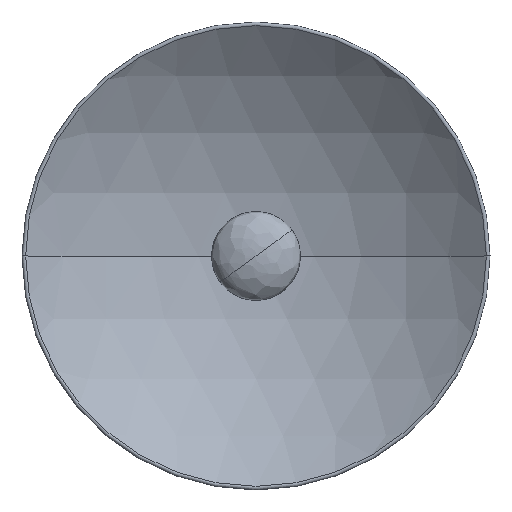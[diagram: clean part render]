
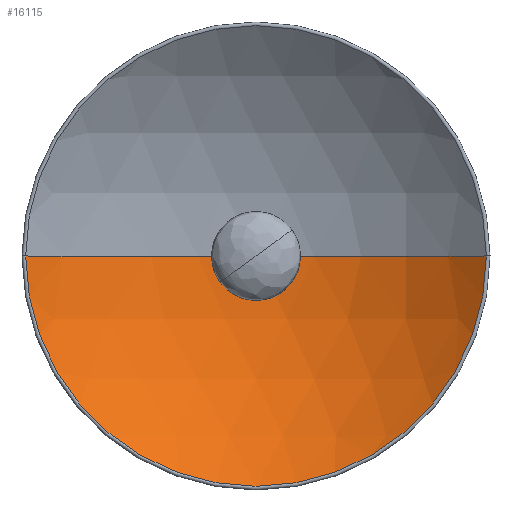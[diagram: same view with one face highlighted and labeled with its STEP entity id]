
A CAD part, top view. The second image highlights one B-rep face of the part: STEP entity #16115.
In plain terms, the highlighted spherical face has radius 233.719 mm.
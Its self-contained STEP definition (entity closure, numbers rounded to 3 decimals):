
#190 = CARTESIAN_POINT ( 'NONE',  ( 0., 0., 158.505 ) ) ;
#1108 = VERTEX_POINT ( 'NONE', #66235 ) ;
#1424 = AXIS2_PLACEMENT_3D ( 'NONE', #190, #72651, #8508 ) ;
#8352 = DIRECTION ( 'NONE',  ( 0., 0., 1. ) ) ;
#8508 = DIRECTION ( 'NONE',  ( 1., 0., 0. ) ) ;
#8664 = CARTESIAN_POINT ( 'NONE',  ( -155.504, 0., -15.974 ) ) ;
#14717 = AXIS2_PLACEMENT_3D ( 'NONE', #29676, #78933, #43181 ) ;
#14877 = CARTESIAN_POINT ( 'NONE',  ( 0., 0., -75.124 ) ) ;
#15943 = DIRECTION ( 'NONE',  ( 0., -1., 0. ) ) ;
#16115 = ADVANCED_FACE ( 'NONE', ( #29456 ), #71743, .F. ) ;
#16234 = EDGE_CURVE ( 'NONE', #66726, #29293, #62284, .T. ) ;
#18466 = DIRECTION ( 'NONE',  ( -1., 0., 0. ) ) ;
#20775 = AXIS2_PLACEMENT_3D ( 'NONE', #73709, #53248, #60700 ) ;
#22118 = VERTEX_POINT ( 'NONE', #8664 ) ;
#29293 = VERTEX_POINT ( 'NONE', #73585 ) ;
#29456 = FACE_OUTER_BOUND ( 'NONE', #61078, .T. ) ;
#29676 = CARTESIAN_POINT ( 'NONE',  ( 0., 0., -15.974 ) ) ;
#30610 = CIRCLE ( 'NONE', #82543, 233.719 ) ;
#30695 = EDGE_CURVE ( 'NONE', #77391, #66726, #49389, .T. ) ;
#31190 = ORIENTED_EDGE ( 'NONE', *, *, #61142, .T. ) ;
#34439 = ORIENTED_EDGE ( 'NONE', *, *, #76499, .T. ) ;
#35975 = CARTESIAN_POINT ( 'NONE',  ( 0., 0., 158.505 ) ) ;
#38198 = ORIENTED_EDGE ( 'NONE', *, *, #16234, .F. ) ;
#41421 = ORIENTED_EDGE ( 'NONE', *, *, #30695, .F. ) ;
#43181 = DIRECTION ( 'NONE',  ( -1., 0., 0. ) ) ;
#44324 = DIRECTION ( 'NONE',  ( 1., 0., 0. ) ) ;
#49389 = CIRCLE ( 'NONE', #67146, 6.5 ) ;
#49596 = CARTESIAN_POINT ( 'NONE',  ( 0., -6.5, -75.124 ) ) ;
#53248 = DIRECTION ( 'NONE',  ( 0., 0., 1. ) ) ;
#57296 = EDGE_CURVE ( 'NONE', #1108, #77391, #69748, .T. ) ;
#60700 = DIRECTION ( 'NONE',  ( 0., 1., 0. ) ) ;
#61078 = EDGE_LOOP ( 'NONE', ( #90376, #34439, #31190, #38198, #41421 ) ) ;
#61142 = EDGE_CURVE ( 'NONE', #22118, #29293, #77214, .T. ) ;
#62284 = CIRCLE ( 'NONE', #63751, 233.719 ) ;
#63751 = AXIS2_PLACEMENT_3D ( 'NONE', #35975, #15943, #44324 ) ;
#65988 = DIRECTION ( 'NONE',  ( 0., 1., 0. ) ) ;
#66235 = CARTESIAN_POINT ( 'NONE',  ( -6.5, 0., -75.124 ) ) ;
#66726 = VERTEX_POINT ( 'NONE', #70299 ) ;
#67146 = AXIS2_PLACEMENT_3D ( 'NONE', #14877, #8352, #65988 ) ;
#69748 = CIRCLE ( 'NONE', #20775, 6.5 ) ;
#70299 = CARTESIAN_POINT ( 'NONE',  ( 6.5, 0., -75.124 ) ) ;
#71138 = CARTESIAN_POINT ( 'NONE',  ( 0., 0., 158.505 ) ) ;
#71743 = SPHERICAL_SURFACE ( 'NONE', #1424, 233.719 ) ;
#72042 = DIRECTION ( 'NONE',  ( 0., 1., 0. ) ) ;
#72651 = DIRECTION ( 'NONE',  ( 0., 1., 0. ) ) ;
#73585 = CARTESIAN_POINT ( 'NONE',  ( 155.504, 0., -15.974 ) ) ;
#73709 = CARTESIAN_POINT ( 'NONE',  ( 0., 0., -75.124 ) ) ;
#76499 = EDGE_CURVE ( 'NONE', #1108, #22118, #30610, .T. ) ;
#77214 = CIRCLE ( 'NONE', #14717, 155.504 ) ;
#77391 = VERTEX_POINT ( 'NONE', #49596 ) ;
#78933 = DIRECTION ( 'NONE',  ( 0., 0., 1. ) ) ;
#82543 = AXIS2_PLACEMENT_3D ( 'NONE', #71138, #72042, #18466 ) ;
#90376 = ORIENTED_EDGE ( 'NONE', *, *, #57296, .F. ) ;
